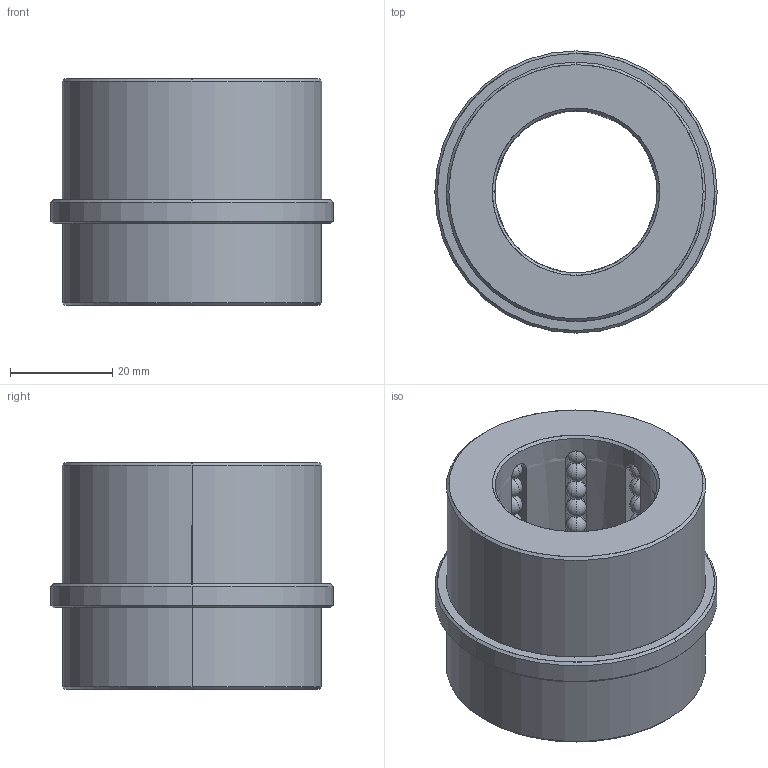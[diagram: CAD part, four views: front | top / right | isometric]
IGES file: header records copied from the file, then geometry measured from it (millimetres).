
Start section: START RECORD GO HERE.
Global section: file name: BGEB1250.igs; native system: DASSAULT SYSTEMES CATIA V5 R20 - www.3ds.com; preprocessor: CATIA Version 5 Release 20 ; author: Utente; organization: NB04-ASUS; date: 20200419.195353; units: millimetre
Bounding box: 55.3 x 55.3 x 44.45 mm (x, y, z)
Surface area: 20733 mm2 (no closed solid volume)
Topology: 0 solids, 0 shells, 364 faces, 1524 edges, 948 vertices
Faces by surface type: revolution 336, plane 28
